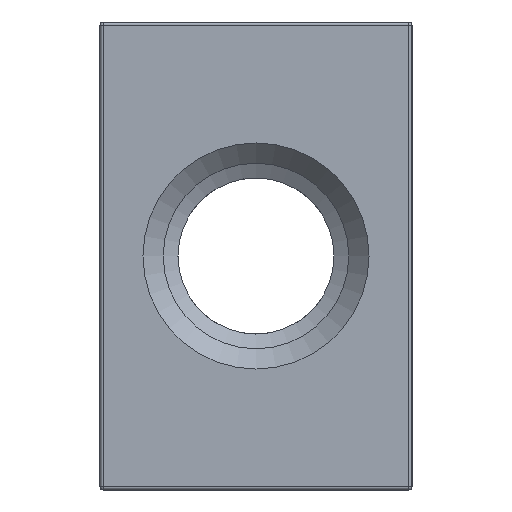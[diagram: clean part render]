
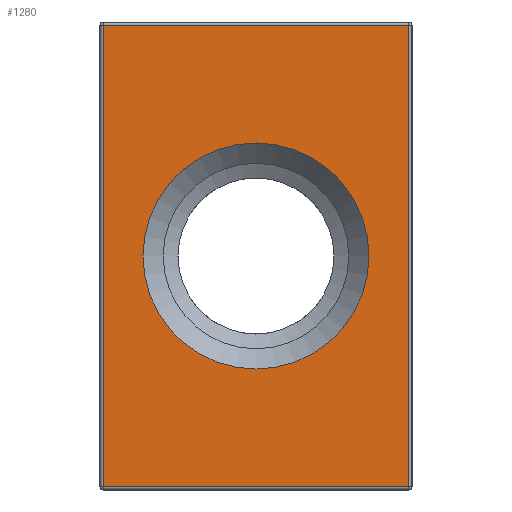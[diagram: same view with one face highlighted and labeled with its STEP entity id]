
A CAD part, left-side view. The second image highlights one B-rep face of the part: STEP entity #1280.
In plain terms, the highlighted planar face has unit normal (-1, 0, 0).
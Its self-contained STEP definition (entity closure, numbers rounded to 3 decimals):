
#67=FACE_BOUND('',#381,.T.);
#88=PLANE('',#1407);
#94=LINE('',#1993,#167);
#100=LINE('',#2023,#173);
#104=LINE('',#2029,#177);
#106=LINE('',#2032,#179);
#167=VECTOR('',#1576,10.);
#173=VECTOR('',#1612,10.);
#177=VECTOR('',#1620,10.);
#179=VECTOR('',#1624,10.);
#297=FACE_OUTER_BOUND('',#380,.T.);
#380=EDGE_LOOP('',(#955,#956,#957,#958));
#381=EDGE_LOOP('',(#959));
#482=CIRCLE('',#1408,7.245);
#553=VERTEX_POINT('',#1961);
#564=VERTEX_POINT('',#1988);
#567=VERTEX_POINT('',#1998);
#571=VERTEX_POINT('',#2015);
#582=VERTEX_POINT('',#2065);
#688=EDGE_CURVE('',#553,#564,#94,.T.);
#703=EDGE_CURVE('',#571,#567,#100,.T.);
#707=EDGE_CURVE('',#564,#571,#104,.T.);
#709=EDGE_CURVE('',#567,#553,#106,.T.);
#726=EDGE_CURVE('',#582,#582,#482,.T.);
#955=ORIENTED_EDGE('',*,*,#703,.F.);
#956=ORIENTED_EDGE('',*,*,#707,.F.);
#957=ORIENTED_EDGE('',*,*,#688,.F.);
#958=ORIENTED_EDGE('',*,*,#709,.F.);
#959=ORIENTED_EDGE('',*,*,#726,.F.);
#1280=ADVANCED_FACE('',(#297,#67),#88,.T.);
#1407=AXIS2_PLACEMENT_3D('',#2064,#1663,#1664);
#1408=AXIS2_PLACEMENT_3D('',#2066,#1665,#1666);
#1576=DIRECTION('',(0.,1.,0.));
#1612=DIRECTION('',(0.,-1.,0.));
#1620=DIRECTION('',(0.,0.,1.));
#1624=DIRECTION('',(0.,0.,-1.));
#1663=DIRECTION('center_axis',(-1.,0.,0.));
#1664=DIRECTION('ref_axis',(0.,0.,1.));
#1665=DIRECTION('center_axis',(-1.,0.,0.));
#1666=DIRECTION('ref_axis',(0.,1.,0.));
#1961=CARTESIAN_POINT('',(-75.,-9.8,-14.8));
#1988=CARTESIAN_POINT('',(-75.,9.8,-14.8));
#1993=CARTESIAN_POINT('',(-75.,0.,-14.8));
#1998=CARTESIAN_POINT('',(-75.,-9.8,14.8));
#2015=CARTESIAN_POINT('',(-75.,9.8,14.8));
#2023=CARTESIAN_POINT('',(-75.,0.,14.8));
#2029=CARTESIAN_POINT('',(-75.,9.8,-7.5));
#2032=CARTESIAN_POINT('',(-75.,-9.8,-7.5));
#2064=CARTESIAN_POINT('Origin',(-75.,0.,-15.));
#2065=CARTESIAN_POINT('',(-75.,-7.245,0.));
#2066=CARTESIAN_POINT('Origin',(-75.,0.,0.));
